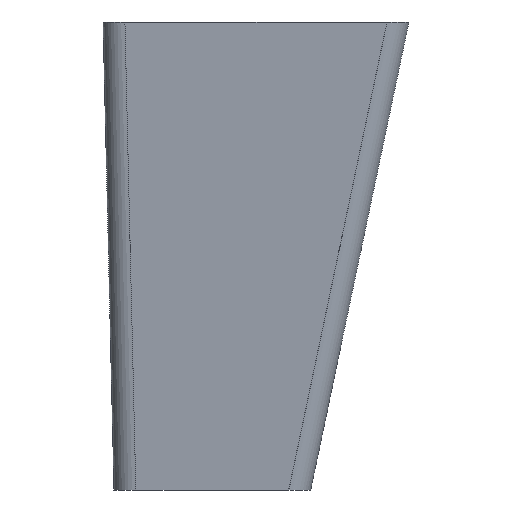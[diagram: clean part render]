
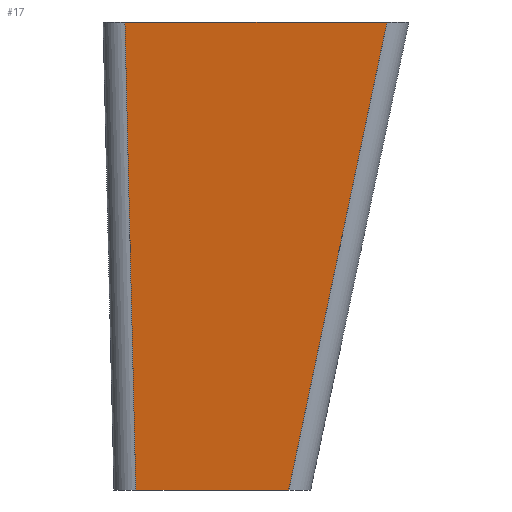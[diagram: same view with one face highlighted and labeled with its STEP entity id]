
A CAD part, left-side view. The second image highlights one B-rep face of the part: STEP entity #17.
In plain terms, the highlighted free-form (B-spline) face has degree [1, 1] with [2, 2] control points.
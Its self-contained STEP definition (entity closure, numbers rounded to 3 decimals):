
#17 = ADVANCED_FACE('',(#18),#32,.T.);
#18 = FACE_BOUND('',#19,.T.);
#19 = EDGE_LOOP('',(#20,#54,#93,#121));
#20 = ORIENTED_EDGE('',*,*,#21,.F.);
#21 = EDGE_CURVE('',#22,#24,#26,.T.);
#22 = VERTEX_POINT('',#23);
#23 = CARTESIAN_POINT('',(-28.25,8.45,-12.71));
#24 = VERTEX_POINT('',#25);
#25 = CARTESIAN_POINT('',(-28.25,11.95,-12.71));
#26 = SURFACE_CURVE('',#27,(#31,#42),.PCURVE_S1.);
#27 = LINE('',#28,#29);
#28 = CARTESIAN_POINT('',(-28.25,10.2,-12.71));
#29 = VECTOR('',#30,1.);
#30 = DIRECTION('',(0.,1.,0.));
#31 = PCURVE('',#32,#37);
#32 = B_SPLINE_SURFACE_WITH_KNOTS('',1,1,(
    (#33,#34)
    ,(#35,#36)),.UNSPECIFIED.,.F.,.F.,.F.,(2,2),(2,2),(-3.,3.),(0.,1.),
  .PIECEWISE_BEZIER_KNOTS.);
#33 = CARTESIAN_POINT('',(-28.25,11.95,-12.71));
#34 = CARTESIAN_POINT('',(-29.5,12.2,-2.));
#35 = CARTESIAN_POINT('',(-28.25,8.45,-12.71));
#36 = CARTESIAN_POINT('',(-29.5,6.2,-2.));
#37 = DEFINITIONAL_REPRESENTATION('',(#38),#41);
#38 = B_SPLINE_CURVE_WITH_KNOTS('',1,(#39,#40),.UNSPECIFIED.,.F.,.F.,(2,
    2),(-1.75,1.75),.PIECEWISE_BEZIER_KNOTS.);
#39 = CARTESIAN_POINT('',(3.,0.));
#40 = CARTESIAN_POINT('',(-3.,0.));
#41 = ( GEOMETRIC_REPRESENTATION_CONTEXT(2) 
PARAMETRIC_REPRESENTATION_CONTEXT() REPRESENTATION_CONTEXT('2D SPACE',''
  ) );
#42 = PCURVE('',#43,#48);
#43 = PLANE('',#44);
#44 = AXIS2_PLACEMENT_3D('',#45,#46,#47);
#45 = CARTESIAN_POINT('',(-27.75,11.95,-12.71));
#46 = DIRECTION('',(0.,0.,1.));
#47 = DIRECTION('',(1.,0.,0.));
#48 = DEFINITIONAL_REPRESENTATION('',(#49),#53);
#49 = LINE('',#50,#51);
#50 = CARTESIAN_POINT('',(-0.5,-1.75));
#51 = VECTOR('',#52,1.);
#52 = DIRECTION('',(0.,1.));
#53 = ( GEOMETRIC_REPRESENTATION_CONTEXT(2) 
PARAMETRIC_REPRESENTATION_CONTEXT() REPRESENTATION_CONTEXT('2D SPACE',''
  ) );
#54 = ORIENTED_EDGE('',*,*,#55,.T.);
#55 = EDGE_CURVE('',#22,#56,#58,.T.);
#56 = VERTEX_POINT('',#57);
#57 = CARTESIAN_POINT('',(-29.5,6.2,-2.));
#58 = SURFACE_CURVE('',#59,(#62,#69),.PCURVE_S1.);
#59 = B_SPLINE_CURVE_WITH_KNOTS('',1,(#60,#61),.UNSPECIFIED.,.F.,.F.,(2,
    2),(0.,1.),.PIECEWISE_BEZIER_KNOTS.);
#60 = CARTESIAN_POINT('',(-28.25,8.45,-12.71));
#61 = CARTESIAN_POINT('',(-29.5,6.2,-2.));
#62 = PCURVE('',#32,#63);
#63 = DEFINITIONAL_REPRESENTATION('',(#64),#68);
#64 = LINE('',#65,#66);
#65 = CARTESIAN_POINT('',(3.,0.));
#66 = VECTOR('',#67,1.);
#67 = DIRECTION('',(0.,1.));
#68 = ( GEOMETRIC_REPRESENTATION_CONTEXT(2) 
PARAMETRIC_REPRESENTATION_CONTEXT() REPRESENTATION_CONTEXT('2D SPACE',''
  ) );
#69 = PCURVE('',#70,#87);
#70 = B_SPLINE_SURFACE_WITH_KNOTS('',7,1,(
    (#71,#72)
    ,(#73,#74)
    ,(#75,#76)
    ,(#77,#78)
    ,(#79,#80)
    ,(#81,#82)
    ,(#83,#84)
    ,(#85,#86
    )),.UNSPECIFIED.,.F.,.F.,.F.,(8,8),(2,2),(3.142,
    4.712),(0.,1.),.PIECEWISE_BEZIER_KNOTS.);
#71 = CARTESIAN_POINT('',(-28.25,8.45,-12.71));
#72 = CARTESIAN_POINT('',(-29.5,6.2,-2.));
#73 = CARTESIAN_POINT('',(-28.25,8.338,-12.71));
#74 = CARTESIAN_POINT('',(-29.5,6.088,-2.));
#75 = CARTESIAN_POINT('',(-28.221,8.226,-12.71));
#76 = CARTESIAN_POINT('',(-29.471,5.976,-2.));
#77 = CARTESIAN_POINT('',(-28.162,8.123,-12.71)
  );
#78 = CARTESIAN_POINT('',(-29.412,5.873,-2.));
#79 = CARTESIAN_POINT('',(-28.077,8.038,-12.71));
#80 = CARTESIAN_POINT('',(-29.327,5.788,-2.));
#81 = CARTESIAN_POINT('',(-27.974,7.979,-12.71));
#82 = CARTESIAN_POINT('',(-29.224,5.729,-2.));
#83 = CARTESIAN_POINT('',(-27.862,7.95,-12.71));
#84 = CARTESIAN_POINT('',(-29.112,5.7,-2.));
#85 = CARTESIAN_POINT('',(-27.75,7.95,-12.71));
#86 = CARTESIAN_POINT('',(-29.,5.7,-2.));
#87 = DEFINITIONAL_REPRESENTATION('',(#88),#92);
#88 = LINE('',#89,#90);
#89 = CARTESIAN_POINT('',(3.142,0.));
#90 = VECTOR('',#91,1.);
#91 = DIRECTION('',(0.,1.));
#92 = ( GEOMETRIC_REPRESENTATION_CONTEXT(2) 
PARAMETRIC_REPRESENTATION_CONTEXT() REPRESENTATION_CONTEXT('2D SPACE',''
  ) );
#93 = ORIENTED_EDGE('',*,*,#94,.T.);
#94 = EDGE_CURVE('',#56,#95,#97,.T.);
#95 = VERTEX_POINT('',#96);
#96 = CARTESIAN_POINT('',(-29.5,12.2,-2.));
#97 = SURFACE_CURVE('',#98,(#102,#109),.PCURVE_S1.);
#98 = LINE('',#99,#100);
#99 = CARTESIAN_POINT('',(-29.5,9.2,-2.));
#100 = VECTOR('',#101,1.);
#101 = DIRECTION('',(0.,1.,0.));
#102 = PCURVE('',#32,#103);
#103 = DEFINITIONAL_REPRESENTATION('',(#104),#108);
#104 = LINE('',#105,#106);
#105 = CARTESIAN_POINT('',(0.,1.));
#106 = VECTOR('',#107,1.);
#107 = DIRECTION('',(-1.,0.));
#108 = ( GEOMETRIC_REPRESENTATION_CONTEXT(2) 
PARAMETRIC_REPRESENTATION_CONTEXT() REPRESENTATION_CONTEXT('2D SPACE',''
  ) );
#109 = PCURVE('',#110,#115);
#110 = PLANE('',#111);
#111 = AXIS2_PLACEMENT_3D('',#112,#113,#114);
#112 = CARTESIAN_POINT('',(-29.,6.2,-2.));
#113 = DIRECTION('',(0.,0.,1.));
#114 = DIRECTION('',(1.,0.,0.));
#115 = DEFINITIONAL_REPRESENTATION('',(#116),#120);
#116 = LINE('',#117,#118);
#117 = CARTESIAN_POINT('',(-0.5,3.));
#118 = VECTOR('',#119,1.);
#119 = DIRECTION('',(0.,1.));
#120 = ( GEOMETRIC_REPRESENTATION_CONTEXT(2) 
PARAMETRIC_REPRESENTATION_CONTEXT() REPRESENTATION_CONTEXT('2D SPACE',''
  ) );
#121 = ORIENTED_EDGE('',*,*,#122,.F.);
#122 = EDGE_CURVE('',#24,#95,#123,.T.);
#123 = SURFACE_CURVE('',#124,(#127,#134),.PCURVE_S1.);
#124 = B_SPLINE_CURVE_WITH_KNOTS('',1,(#125,#126),.UNSPECIFIED.,.F.,.F.,
  (2,2),(0.,1.),.PIECEWISE_BEZIER_KNOTS.);
#125 = CARTESIAN_POINT('',(-28.25,11.95,-12.71));
#126 = CARTESIAN_POINT('',(-29.5,12.2,-2.));
#127 = PCURVE('',#32,#128);
#128 = DEFINITIONAL_REPRESENTATION('',(#129),#133);
#129 = LINE('',#130,#131);
#130 = CARTESIAN_POINT('',(-3.,0.));
#131 = VECTOR('',#132,1.);
#132 = DIRECTION('',(0.,1.));
#133 = ( GEOMETRIC_REPRESENTATION_CONTEXT(2) 
PARAMETRIC_REPRESENTATION_CONTEXT() REPRESENTATION_CONTEXT('2D SPACE',''
  ) );
#134 = PCURVE('',#135,#152);
#135 = B_SPLINE_SURFACE_WITH_KNOTS('',7,1,(
    (#136,#137)
    ,(#138,#139)
    ,(#140,#141)
    ,(#142,#143)
    ,(#144,#145)
    ,(#146,#147)
    ,(#148,#149)
    ,(#150,#151
    )),.UNSPECIFIED.,.F.,.F.,.F.,(8,8),(2,2),(1.571,
    3.142),(0.,1.),.PIECEWISE_BEZIER_KNOTS.);
#136 = CARTESIAN_POINT('',(-27.75,12.45,-12.71));
#137 = CARTESIAN_POINT('',(-29.,12.7,-2.));
#138 = CARTESIAN_POINT('',(-27.862,12.45,-12.71));
#139 = CARTESIAN_POINT('',(-29.112,12.7,-2.));
#140 = CARTESIAN_POINT('',(-27.974,12.421,-12.71));
#141 = CARTESIAN_POINT('',(-29.224,12.671,-2.));
#142 = CARTESIAN_POINT('',(-28.077,12.362,-12.71));
#143 = CARTESIAN_POINT('',(-29.327,12.612,-2.));
#144 = CARTESIAN_POINT('',(-28.162,12.277,-12.71));
#145 = CARTESIAN_POINT('',(-29.412,12.527,-2.));
#146 = CARTESIAN_POINT('',(-28.221,12.174,-12.71));
#147 = CARTESIAN_POINT('',(-29.471,12.424,-2.));
#148 = CARTESIAN_POINT('',(-28.25,12.062,-12.71));
#149 = CARTESIAN_POINT('',(-29.5,12.312,-2.));
#150 = CARTESIAN_POINT('',(-28.25,11.95,-12.71));
#151 = CARTESIAN_POINT('',(-29.5,12.2,-2.));
#152 = DEFINITIONAL_REPRESENTATION('',(#153),#157);
#153 = LINE('',#154,#155);
#154 = CARTESIAN_POINT('',(3.142,0.));
#155 = VECTOR('',#156,1.);
#156 = DIRECTION('',(0.,1.));
#157 = ( GEOMETRIC_REPRESENTATION_CONTEXT(2) 
PARAMETRIC_REPRESENTATION_CONTEXT() REPRESENTATION_CONTEXT('2D SPACE',''
  ) );
